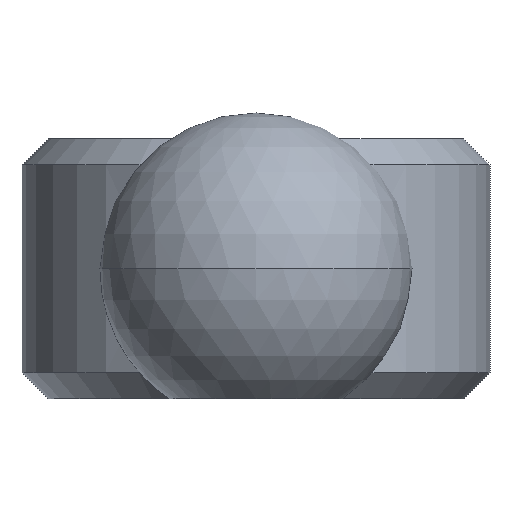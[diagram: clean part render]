
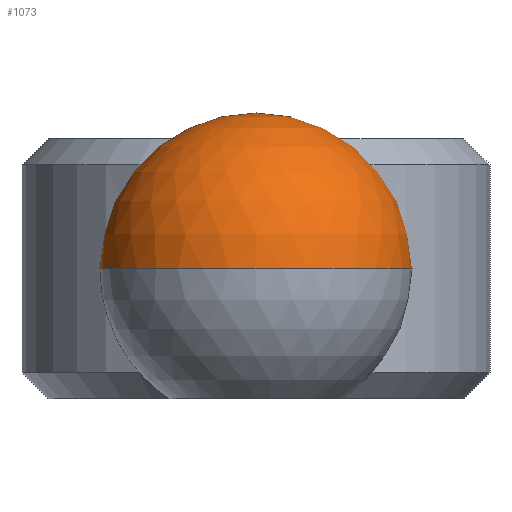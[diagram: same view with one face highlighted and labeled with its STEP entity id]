
A CAD part, front view. The second image highlights one B-rep face of the part: STEP entity #1073.
In plain terms, the highlighted spherical face has radius 2.25 mm.
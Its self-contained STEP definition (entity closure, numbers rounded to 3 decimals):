
#55 = DIRECTION ( 'NONE',  ( 0., -1., 0. ) ) ;
#56 = FACE_OUTER_BOUND ( 'NONE', #410, .T. ) ;
#65 = CARTESIAN_POINT ( 'NONE',  ( 0., -3., 1.875 ) ) ;
#67 = CIRCLE ( 'NONE', #1099, 1.5 ) ;
#70 = ORIENTED_EDGE ( 'NONE', *, *, #228, .T. ) ;
#94 = CARTESIAN_POINT ( 'NONE',  ( 0., -3., 1.875 ) ) ;
#148 = CARTESIAN_POINT ( 'NONE',  ( 0., -3., 1.875 ) ) ;
#166 = DIRECTION ( 'NONE',  ( 0., 1., 0. ) ) ;
#170 = CARTESIAN_POINT ( 'NONE',  ( 0., -1.323, 1.875 ) ) ;
#184 = CIRCLE ( 'NONE', #824, 2.25 ) ;
#218 = AXIS2_PLACEMENT_3D ( 'NONE', #393, #55, #1079 ) ;
#219 = DIRECTION ( 'NONE',  ( 1., 0., 0. ) ) ;
#222 = ORIENTED_EDGE ( 'NONE', *, *, #352, .T. ) ;
#228 = EDGE_CURVE ( 'NONE', #567, #684, #698, .T. ) ;
#232 = VERTEX_POINT ( 'NONE', #314 ) ;
#248 = EDGE_CURVE ( 'NONE', #320, #232, #184, .T. ) ;
#298 = DIRECTION ( 'NONE',  ( 0., 0., 1. ) ) ;
#307 = DIRECTION ( 'NONE',  ( 0., 0., 1. ) ) ;
#309 = DIRECTION ( 'NONE',  ( 0., 0., -1. ) ) ;
#314 = CARTESIAN_POINT ( 'NONE',  ( 1.5, -1.323, 1.875 ) ) ;
#320 = VERTEX_POINT ( 'NONE', #991 ) ;
#323 = AXIS2_PLACEMENT_3D ( 'NONE', #148, #309, #480 ) ;
#352 = EDGE_CURVE ( 'NONE', #232, #392, #503, .T. ) ;
#359 = EDGE_CURVE ( 'NONE', #392, #567, #67, .T. ) ;
#364 = CIRCLE ( 'NONE', #610, 2.25 ) ;
#369 = EDGE_CURVE ( 'NONE', #320, #684, #364, .T. ) ;
#392 = VERTEX_POINT ( 'NONE', #427 ) ;
#393 = CARTESIAN_POINT ( 'NONE',  ( 0., -1.323, 1.875 ) ) ;
#410 = EDGE_LOOP ( 'NONE', ( #657, #1016, #222, #786, #70 ) ) ;
#418 = AXIS2_PLACEMENT_3D ( 'NONE', #726, #298, #636 ) ;
#427 = CARTESIAN_POINT ( 'NONE',  ( 0., -1.323, 3.375 ) ) ;
#480 = DIRECTION ( 'NONE',  ( 0., 1., 0. ) ) ;
#503 = CIRCLE ( 'NONE', #218, 1.5 ) ;
#510 = DIRECTION ( 'NONE',  ( 0., -1., 0. ) ) ;
#567 = VERTEX_POINT ( 'NONE', #785 ) ;
#610 = AXIS2_PLACEMENT_3D ( 'NONE', #94, #681, #166 ) ;
#636 = DIRECTION ( 'NONE',  ( 1., 0., 0. ) ) ;
#657 = ORIENTED_EDGE ( 'NONE', *, *, #369, .F. ) ;
#681 = DIRECTION ( 'NONE',  ( 0., 0., -1. ) ) ;
#684 = VERTEX_POINT ( 'NONE', #744 ) ;
#698 = CIRCLE ( 'NONE', #418, 2.25 ) ;
#726 = CARTESIAN_POINT ( 'NONE',  ( 0., -3., 1.875 ) ) ;
#737 = SPHERICAL_SURFACE ( 'NONE', #323, 2.25 ) ;
#744 = CARTESIAN_POINT ( 'NONE',  ( -2.25, -3., 1.875 ) ) ;
#785 = CARTESIAN_POINT ( 'NONE',  ( -1.5, -1.323, 1.875 ) ) ;
#786 = ORIENTED_EDGE ( 'NONE', *, *, #359, .T. ) ;
#824 = AXIS2_PLACEMENT_3D ( 'NONE', #65, #307, #219 ) ;
#925 = DIRECTION ( 'NONE',  ( 0., 0., -1. ) ) ;
#991 = CARTESIAN_POINT ( 'NONE',  ( 2.25, -3., 1.875 ) ) ;
#1016 = ORIENTED_EDGE ( 'NONE', *, *, #248, .T. ) ;
#1073 = ADVANCED_FACE ( 'NONE', ( #56 ), #737, .T. ) ;
#1079 = DIRECTION ( 'NONE',  ( 0., 0., -1. ) ) ;
#1099 = AXIS2_PLACEMENT_3D ( 'NONE', #170, #510, #925 ) ;
